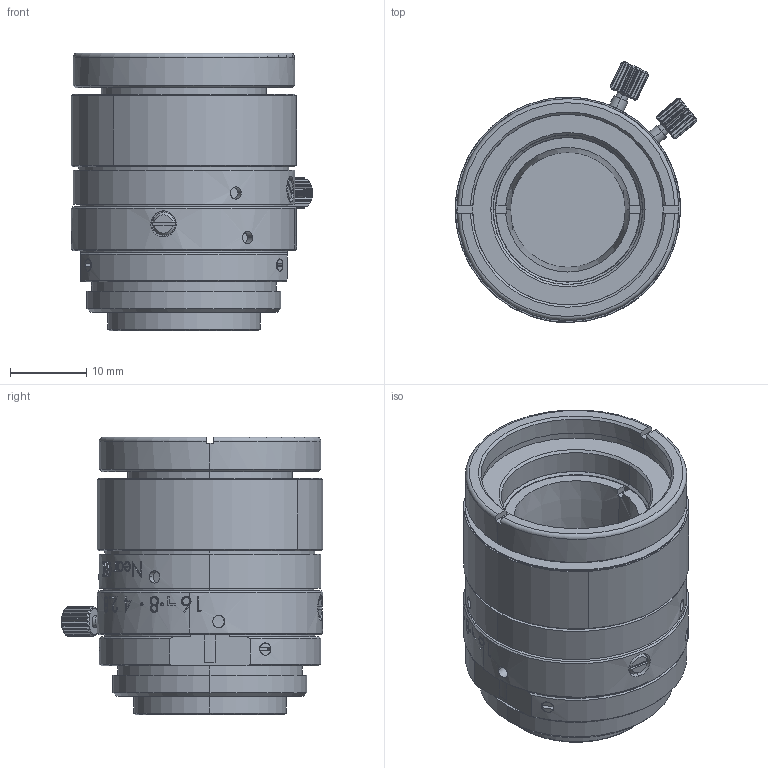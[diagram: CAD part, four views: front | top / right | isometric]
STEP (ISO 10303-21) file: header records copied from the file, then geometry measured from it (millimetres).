
FILE_DESCRIPTION (( 'STEP AP203' ), '1' );
FILE_NAME ('3d_ml-m2518hr_a003.STEP', '2019-04-12T00:22:15', ( '' ), ( '' ), 'SwSTEP 2.0', 'SolidWorks 2014', '' );
FILE_SCHEMA (( 'CONFIG_CONTROL_DESIGN' ));
Length unit declared in the file: millimetre
Products named in the file (1): 3d_ml-m2518hr_a003
Bounding box: 31.62 x 34.2 x 36.35 mm (x, y, z)
Volume: 17755.4 mm3; surface area: 7311.5 mm2
Topology: 1 solids, 1 shells, 896 faces, 2385 edges, 1574 vertices
Faces by surface type: cylinder 327, plane 306, bspline 191, cone 70, torus 2
Entity records: 47208 total; most frequent: CARTESIAN_POINT 27237, ORIENTED_EDGE 4770, DIRECTION 3118, EDGE_CURVE 2385, VERTEX_POINT 1574, AXIS2_PLACEMENT_3D 1198, B_SPLINE_CURVE_WITH_KNOTS 1159, EDGE_LOOP 979
